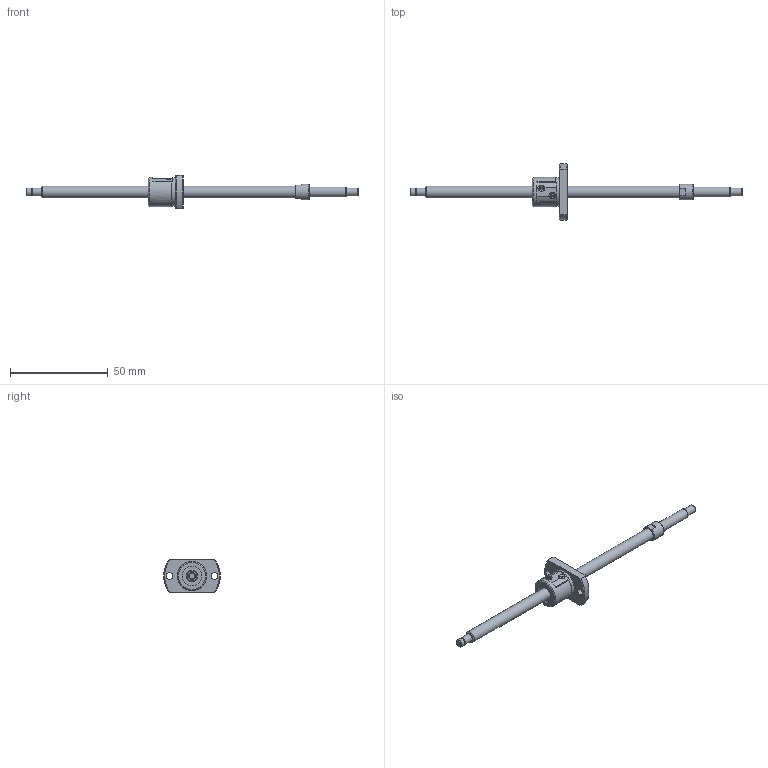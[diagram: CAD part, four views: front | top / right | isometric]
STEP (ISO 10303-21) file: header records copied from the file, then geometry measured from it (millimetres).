
FILE_DESCRIPTION(/* description */ ('STEP AP214'),/* implementation_level */ '2;1');
FILE_NAME(/* name */ 'SG0602.5-127R170C5B0X(54.5)',/* time_stamp */ '2026-07-20T20:17:40+02:00',/* author */ ('License CC BY-ND 4.0'),/* organization */ ('CADENAS'),/* preprocessor_version */ 'ST-DEVELOPER v20',/* originating_system */ 'PARTsolutions',/* authorisation */ ' ');
FILE_SCHEMA (('AUTOMOTIVE_DESIGN {1 0 10303 214 3 1 1}'));
Length unit declared in the file: millimetre
Products named in the file (3): SG0602.5-127R170C5B0X(54.5); SG0602.5-127R170C5B_shaft; SG0602.5 C5_nut
Assembly tree (2 placements, depth 2):
  SG0602.5-127R170C5B0X(54.5)
    SG0602.5-127R170C5B_shaft
    SG0602.5 C5_nut
Bounding box: 170 x 29 x 17 mm (x, y, z)
Volume: 8113.5 mm3; surface area: 5467.7 mm2
Topology: 2 solids, 2 shells, 78 faces, 185 edges, 122 vertices
Faces by surface type: plane 37, cylinder 26, cone 14, torus 1
Full cylindrical faces by diameter (mm): 3.4 x2, 3.7 x1, 4 x3, 5 x1, 6 x2, 8 x1, 10 x2, 14.6 x1, 15 x1
Entity records: 2167 total; most frequent: CARTESIAN_POINT 403, DIRECTION 368, ORIENTED_EDGE 300, AXIS2_PLACEMENT_3D 155, EDGE_CURVE 150, EDGE_LOOP 120, FACE_BOUND 120, VERTEX_POINT 112
